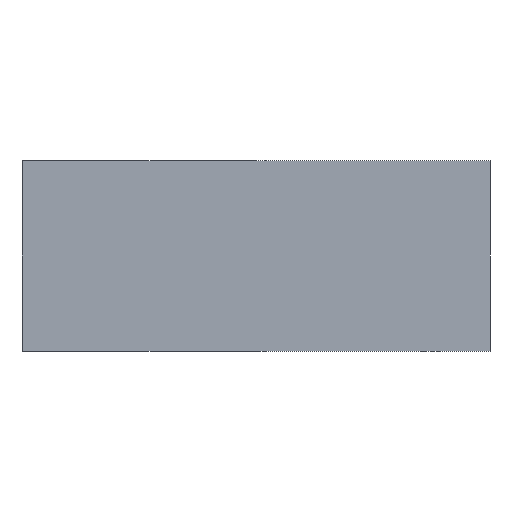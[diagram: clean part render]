
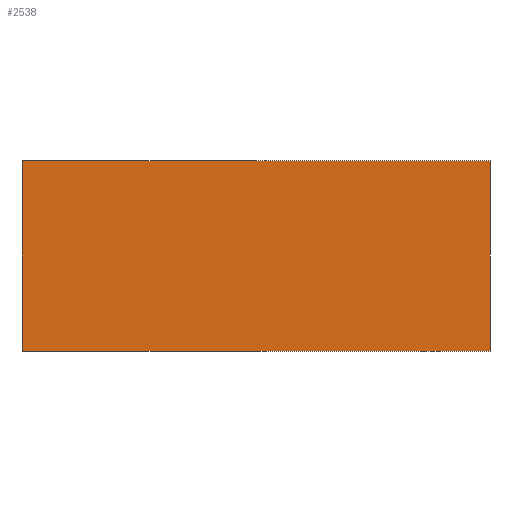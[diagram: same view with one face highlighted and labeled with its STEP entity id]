
A CAD part, left-side view. The second image highlights one B-rep face of the part: STEP entity #2538.
In plain terms, the highlighted planar face has unit normal (-1, 0, 0).
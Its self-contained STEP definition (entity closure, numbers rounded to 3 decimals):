
#75 = VECTOR ( 'NONE', #1008, 1000. ) ;
#224 = EDGE_CURVE ( 'NONE', #3759, #949, #2219, .T. ) ;
#351 = PLANE ( 'NONE',  #3364 ) ;
#486 = CARTESIAN_POINT ( 'NONE',  ( -140., -60.5, 0. ) ) ;
#743 = DIRECTION ( 'NONE',  ( 1., 0., 0. ) ) ;
#776 = CARTESIAN_POINT ( 'NONE',  ( -140., 60.5, 0. ) ) ;
#854 = EDGE_LOOP ( 'NONE', ( #3250, #3504, #868, #886 ) ) ;
#868 = ORIENTED_EDGE ( 'NONE', *, *, #224, .F. ) ;
#886 = ORIENTED_EDGE ( 'NONE', *, *, #3152, .T. ) ;
#949 = VERTEX_POINT ( 'NONE', #3424 ) ;
#981 = EDGE_CURVE ( 'NONE', #2694, #3692, #4021, .T. ) ;
#1008 = DIRECTION ( 'NONE',  ( 0., -1., 0. ) ) ;
#1184 = DIRECTION ( 'NONE',  ( 0., 0., -1. ) ) ;
#1418 = CARTESIAN_POINT ( 'NONE',  ( -140., -60.5, 49.3 ) ) ;
#1430 = VECTOR ( 'NONE', #4720, 1000. ) ;
#1528 = CARTESIAN_POINT ( 'NONE',  ( -140., -60.5, 49.3 ) ) ;
#1925 = DIRECTION ( 'NONE',  ( 0., 0., -1. ) ) ;
#2219 = LINE ( 'NONE', #4218, #75 ) ;
#2311 = CARTESIAN_POINT ( 'NONE',  ( -140., -60.5, 0. ) ) ;
#2323 = VECTOR ( 'NONE', #1925, 1000. ) ;
#2538 = ADVANCED_FACE ( 'NONE', ( #4903 ), #351, .F. ) ;
#2694 = VERTEX_POINT ( 'NONE', #776 ) ;
#2774 = DIRECTION ( 'NONE',  ( 0., 0., -1. ) ) ;
#3152 = EDGE_CURVE ( 'NONE', #3759, #2694, #3742, .T. ) ;
#3235 = VECTOR ( 'NONE', #1184, 1000. ) ;
#3250 = ORIENTED_EDGE ( 'NONE', *, *, #981, .T. ) ;
#3364 = AXIS2_PLACEMENT_3D ( 'NONE', #1528, #743, #2774 ) ;
#3424 = CARTESIAN_POINT ( 'NONE',  ( -140., -60.5, 49.3 ) ) ;
#3504 = ORIENTED_EDGE ( 'NONE', *, *, #4031, .F. ) ;
#3692 = VERTEX_POINT ( 'NONE', #486 ) ;
#3742 = LINE ( 'NONE', #4458, #3235 ) ;
#3759 = VERTEX_POINT ( 'NONE', #4551 ) ;
#4021 = LINE ( 'NONE', #2311, #1430 ) ;
#4031 = EDGE_CURVE ( 'NONE', #949, #3692, #4256, .T. ) ;
#4218 = CARTESIAN_POINT ( 'NONE',  ( -140., -60.5, 49.3 ) ) ;
#4256 = LINE ( 'NONE', #1418, #2323 ) ;
#4458 = CARTESIAN_POINT ( 'NONE',  ( -140., 60.5, 49.3 ) ) ;
#4551 = CARTESIAN_POINT ( 'NONE',  ( -140., 60.5, 49.3 ) ) ;
#4720 = DIRECTION ( 'NONE',  ( 0., -1., 0. ) ) ;
#4903 = FACE_OUTER_BOUND ( 'NONE', #854, .T. ) ;
